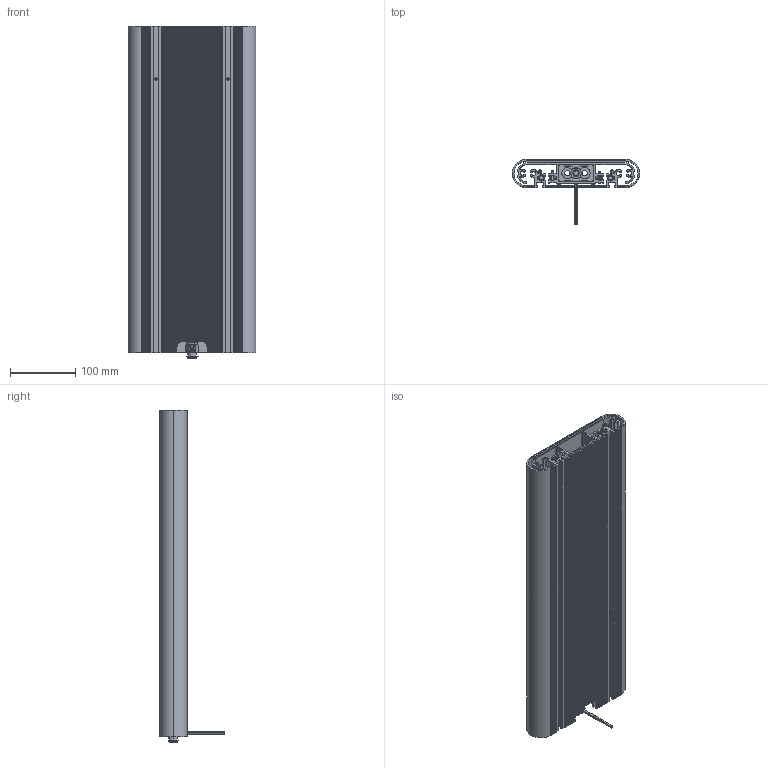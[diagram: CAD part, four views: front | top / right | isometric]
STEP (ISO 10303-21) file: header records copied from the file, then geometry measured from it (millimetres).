
FILE_DESCRIPTION (( 'STEP AP203' ), '1' );
FILE_NAME ('ATU ASSY 500 200.STEP', '2014-03-07T15:53:55', ( '' ), ( '' ), 'SwSTEP 2.0', 'SolidWorks 2014', '' );
FILE_SCHEMA (( 'CONFIG_CONTROL_DESIGN' ));
Length unit declared in the file: millimetre
Products named in the file (1): ATU ASSY 500 200
Bounding box: 194.99 x 99.07 x 508 mm (x, y, z)
Volume: 1304330 mm3; surface area: 1044879.2 mm2
Topology: 21 solids, 21 shells, 1164 faces, 3314 edges, 2203 vertices
Faces by surface type: cylinder 727, plane 295, cone 82, bspline 34, torus 22, sphere 4
Entity records: 45594 total; most frequent: CARTESIAN_POINT 14411, DIRECTION 6765, ORIENTED_EDGE 6604, EDGE_CURVE 3302, AXIS2_PLACEMENT_3D 2661, VERTEX_POINT 2197, CIRCLE 1530, LINE 1443
